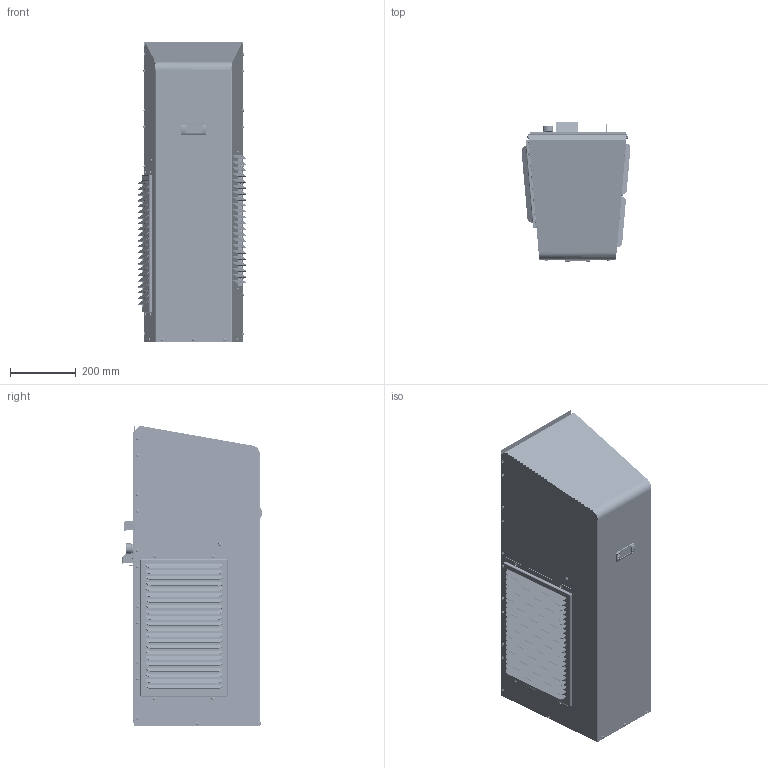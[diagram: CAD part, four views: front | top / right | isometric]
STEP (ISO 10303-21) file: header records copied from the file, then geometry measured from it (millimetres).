
FILE_DESCRIPTION(/* description */ ('Unknown'),/* implementation_level */ '2;1');
FILE_NAME(/* name */ 'NE050-060-080 120V-230V Grid and TermBlk, Externally Visible Parts Only, Ok for distribution',/* time_stamp */ '2017-01-27T14:21:38-06:00',/* author */ ('Unknown'),/* organization */ ('Unknown'),/* preprocessor_version */ 'ST-DEVELOPER v16.7',/* originating_system */ 'DEX',/* authorisation */ $);
FILE_SCHEMA (('AUTOMOTIVE_DESIGN {1 0 10303 214 3 1 1}'));
Products named in the file (69): NE050-060-080 120V-230V Grid and TermBlk, Externally Visible Parts On
ly, Ok for distribution; 20004, Chassis, Single Bend Sides, NE080; 22824_Chase Pre-Assembly; 22820_Rev A_ Chase; 22823_Seal, Chase; 22834, Transition, Evap, NE080; 22825, Mount, Condenser and Fan, NE080; 30025_Coil Cond 8000 - 2 row 1 in Flg; Coil Flange, 15h x 2 row, Left, NE080; Fin Face, 16h x 12w x 2 row; Inlet-Outlet Elbow, Condenser Coil, NE080; Inlet-Outlet Stub; 1.00 CU Return; 1.00 CU Hairpin; Coil Flange, 16H x 2 row, Right, NE080; 35155-8000; 35151-5000, Cu, Cond Liquid Line, NE080; 22826, Baffle, Condenser Ceiling, NE080, Single Side Flange; 20027, Shroud, NE060-080; Display DIXELL TS at 90F, FLAGS DOWN; Display Body DIXELL; Display Numeral 0; Display Numeral 9; Connector, Flag, .250  Rt. Angle; Display Connector DIXELL; 30024_Coil Evap NE080 Unitized - 3 row 1 in Flg; 12x7.5x3 row Fin Face; 30024 Coil Flange, Right, 1in x 12in x 3 row, Unitized; 30024 Coil Flange, Left, 1in x 12in long x 3 row, Unitized; 44011_Filter, Framed_NE8000; Screw_#10-32 x .375 Torx Head Pan Screw - Shroud Screws; 22839_BRACKET, BRACE, SHUTOFF AND VANE; 22827_Baffle, Cond Floor, NE080; 0.3125-18 PEM Clinch Nut; 0.250-20 PEM Clinch Nut Type SP; Rivet_d3~16  x1~4 lg x_08 clinch; Switch_Cherry RRA22H3BBBN; Strain Relief, Small, MP5N4 w flats; Latch; 22840_Bracket, Seal, Ceiling Edge, NE080 ...
Assembly tree (167 placements, depth 3):
  NE050-060-080 120V-230V Grid and TermBlk, Externally Visible Parts On
ly, Ok for distribution
    20004, Chassis, Single Bend Sides, NE080
    22824_Chase Pre-Assembly
      22820_Rev A_ Chase
      22823_Seal, Chase
    22834, Transition, Evap, NE080
    22825, Mount, Condenser and Fan, NE080
    30025_Coil Cond 8000 - 2 row 1 in Flg
      Coil Flange, 15h x 2 row, Left, NE080
      Fin Face, 16h x 12w x 2 row
      Inlet-Outlet Elbow, Condenser Coil, NE080  x2
      Inlet-Outlet Stub  x2
      1.00 CU Return  x15
      1.00 CU Hairpin  x16
      Coil Flange, 16H x 2 row, Right, NE080
      35155-8000
      35151-5000, Cu, Cond Liquid Line, NE080
    22826, Baffle, Condenser Ceiling, NE080, Single Side Flange
    20027, Shroud, NE060-080
    Display DIXELL TS at 90F, FLAGS DOWN
      Display Body DIXELL
      Display Numeral 0
      Display Numeral 9
      Connector, Flag, .250  Rt. Angle  x7
      Display Connector DIXELL
    30024_Coil Evap NE080 Unitized - 3 row 1 in Flg
      12x7.5x3 row Fin Face
      30024 Coil Flange, Right, 1in x 12in x 3 row, Unitized
      30024 Coil Flange, Left, 1in x 12in long x 3 row, Unitized
    44011_Filter, Framed_NE8000
    Screw_#10-32 x .375 Torx Head Pan Screw - Shroud Screws  x37
    22839_BRACKET, BRACE, SHUTOFF AND VANE
    22827_Baffle, Cond Floor, NE080
      22827_Baffle, Cond Floor, NE080
    0.3125-18 PEM Clinch Nut  x3
    0.250-20 PEM Clinch Nut Type SP  x8
    Rivet_d3~16  x1~4 lg x_08 clinch  x2
    Switch_Cherry RRA22H3BBBN
    Strain Relief, Small, MP5N4 w flats
      Latch
      Strain Relief, Small, MP5N4 w flats
    22840_Bracket, Seal, Ceiling Edge, NE080
    Nut, Compression Strain Relief
    Compression Strain Relief
    .190x32 Nut - .375 across Flats, .125 Thick  x2
    71403-N568_Gasket Kit for Single-Bend Chassis
      71403-3_Single Flange Right_oa_2
      71403-1_Single Flange Top
      71403-2_Single Flange Left_oa_3
      71403-4_Single Flange Middle  x2
      71403-5_Single Flange Bottom
    Screw _ Hex Head _No10x3I4
    22832, Seal and Brace, NE080
    22822_Louvered Condenser Cover_NE050-060-080
    Power Cord Retrofit Plate,120V-230V
    23876, Cover, Wago Terminal Block
    Wago 828 Terminal Block
      Wago 828 Terminal Block Body
    22805, Condensate Pan, Evap, NE050-060
    Power Cord Retrofit Backing Plate
Bounding box: 331.58 x 425.21 x 914.46 mm (x, y, z)
Volume: 14007293.1 mm3; surface area: 6119190.3 mm2
Topology: 175 solids, 179 shells, 6406 faces, 16818 edges, 10817 vertices
Faces by surface type: plane 3425, cylinder 2423, torus 219, bspline 176, cone 102, sphere 61
Full cylindrical faces by diameter (mm): 1.143 x4, 1.633 x1, 2.083 x2, 2.311 x2, 2.769 x2, 3.048 x4, 3.175 x6, 3.454 x2, 3.505 x1, 3.556 x4, 3.734 x2, 3.81 x5, 3.962 x6, 3.967 x2, 4.267 x2, 4.318 x37, 4.674 x7, 4.724 x4, 4.76 x2, 4.775 x30, 4.826 x1, 4.902 x34, 4.928 x34, 4.976 x8, 5.105 x3, 5.156 x16, 5.182 x24, 5.334 x1, 5.397 x3, 5.41 x4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
Entity records: 148000 total; most frequent: CARTESIAN_POINT 28682, DIRECTION 23103, ORIENTED_EDGE 22676, EDGE_CURVE 11338, AXIS2_PLACEMENT_3D 7705, LINE 7693, VECTOR 7693, VERTEX_POINT 7534
